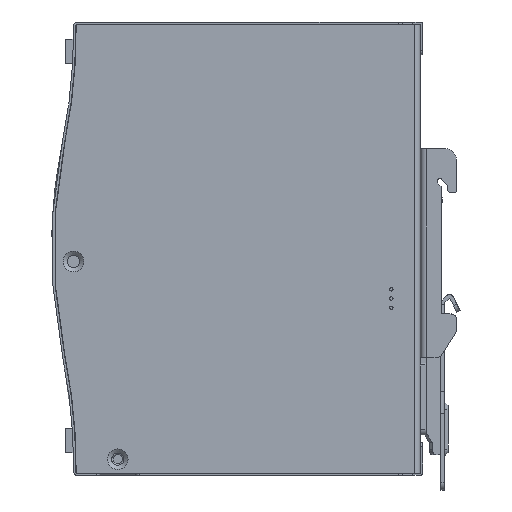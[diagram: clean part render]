
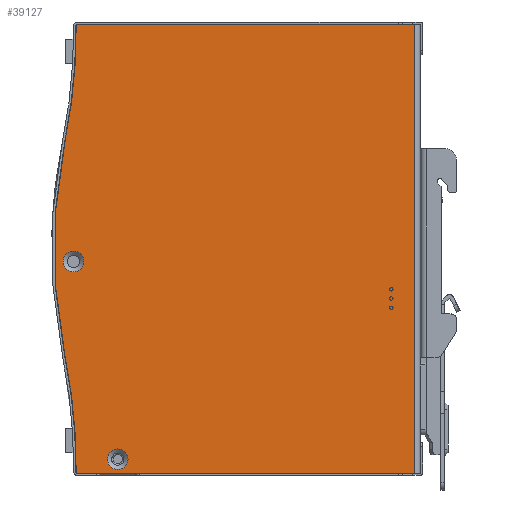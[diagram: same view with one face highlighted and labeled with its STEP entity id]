
A CAD part, front view. The second image highlights one B-rep face of the part: STEP entity #39127.
In plain terms, the highlighted planar face has unit normal (0, -1, 0).
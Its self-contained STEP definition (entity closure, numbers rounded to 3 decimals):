
#38972=CARTESIAN_POINT('',(84.453,13.236,74.0));
#38973=VERTEX_POINT('',#38972);
#38981=CARTESIAN_POINT('',(84.453,13.236,-50.0));
#38982=VERTEX_POINT('',#38981);
#38983=CARTESIAN_POINT('',(84.453,13.236,74.0));
#38984=DIRECTION('',(0.0,0.0,-1.0));
#38985=VECTOR('',#38984,124.0);
#38986=LINE('',#38983,#38985);
#38987=EDGE_CURVE('',#38973,#38982,#38986,.T.);
#39038=CARTESIAN_POINT('',(-13.667,13.236,0.0));
#39039=DIRECTION('',(0.0,-1.0,0.0));
#39040=DIRECTION('',(0.0,0.0,-1.0));
#39041=AXIS2_PLACEMENT_3D('',#39038,#39039,#39040);
#39042=PLANE('',#39041);
#39043=CARTESIAN_POINT('',(-8.439,13.236,-50.0));
#39044=VERTEX_POINT('',#39043);
#39045=CARTESIAN_POINT('',(84.453,13.236,-50.0));
#39046=DIRECTION('',(-1.0,0.0,0.0));
#39047=VECTOR('',#39046,92.892);
#39048=LINE('',#39045,#39047);
#39049=EDGE_CURVE('',#38982,#39044,#39048,.T.);
#39050=ORIENTED_EDGE('',*,*,#39049,.F.);
#39051=ORIENTED_EDGE('',*,*,#38987,.F.);
#39052=CARTESIAN_POINT('',(-8.439,13.236,74.0));
#39053=VERTEX_POINT('',#39052);
#39054=CARTESIAN_POINT('',(84.453,13.236,74.0));
#39055=DIRECTION('',(-1.0,0.0,0.0));
#39056=VECTOR('',#39055,92.892);
#39057=LINE('',#39054,#39056);
#39058=EDGE_CURVE('',#38973,#39053,#39057,.T.);
#39059=ORIENTED_EDGE('',*,*,#39058,.T.);
#39060=CARTESIAN_POINT('',(-8.939,13.236,73.495));
#39061=VERTEX_POINT('',#39060);
#39062=CARTESIAN_POINT('',(-8.439,13.236,73.5));
#39063=DIRECTION('',(0.0,-1.0,0.0));
#39064=DIRECTION('',(-1.0,0.0,0.0));
#39065=AXIS2_PLACEMENT_3D('',#39062,#39063,#39064);
#39066=CIRCLE('',#39065,0.5);
#39067=EDGE_CURVE('',#39053,#39061,#39066,.T.);
#39068=ORIENTED_EDGE('',*,*,#39067,.T.);
#39069=CARTESIAN_POINT('',(-11.964,13.236,42.01));
#39070=VERTEX_POINT('',#39069);
#39071=CARTESIAN_POINT('',(-158.932,13.236,72.019));
#39072=DIRECTION('',(0.0,-1.0,0.0));
#39073=DIRECTION('',(0.0,0.0,-1.0));
#39074=AXIS2_PLACEMENT_3D('',#39071,#39072,#39073);
#39075=CIRCLE('',#39074,150.);
#39076=EDGE_CURVE('',#39070,#39061,#39075,.T.);
#39077=ORIENTED_EDGE('',*,*,#39076,.F.);
#39078=CARTESIAN_POINT('',(-11.964,13.236,-18.01));
#39079=VERTEX_POINT('',#39078);
#39080=CARTESIAN_POINT('',(135.003,13.236,12.));
#39081=DIRECTION('',(0.0,-1.0,0.0));
#39082=DIRECTION('',(0.0,0.0,-1.0));
#39083=AXIS2_PLACEMENT_3D('',#39080,#39081,#39082);
#39084=CIRCLE('',#39083,150.);
#39085=EDGE_CURVE('',#39070,#39079,#39084,.T.);
#39086=ORIENTED_EDGE('',*,*,#39085,.T.);
#39087=CARTESIAN_POINT('',(-8.939,13.236,-49.495));
#39088=VERTEX_POINT('',#39087);
#39089=CARTESIAN_POINT('',(-158.932,13.236,-48.019));
#39090=DIRECTION('',(0.0,-1.0,0.0));
#39091=DIRECTION('',(0.0,0.0,-1.0));
#39092=AXIS2_PLACEMENT_3D('',#39089,#39090,#39091);
#39093=CIRCLE('',#39092,150.);
#39094=EDGE_CURVE('',#39088,#39079,#39093,.T.);
#39095=ORIENTED_EDGE('',*,*,#39094,.F.);
#39096=CARTESIAN_POINT('',(-8.439,13.236,-49.5));
#39097=DIRECTION('',(0.0,-1.0,0.0));
#39098=DIRECTION('',(-1.0,0.0,0.0));
#39099=AXIS2_PLACEMENT_3D('',#39096,#39097,#39098);
#39100=CIRCLE('',#39099,0.5);
#39101=EDGE_CURVE('',#39088,#39044,#39100,.T.);
#39102=ORIENTED_EDGE('',*,*,#39101,.T.);
#39103=EDGE_LOOP('',(#39050,#39051,#39059,#39068,#39077,#39086,#39095,#39102));
#39104=FACE_OUTER_BOUND('',#39103,.T.);
#39105=CARTESIAN_POINT('',(5.403,13.236,-46.1));
#39106=VERTEX_POINT('',#39105);
#39107=CARTESIAN_POINT('',(2.553,13.236,-46.1));
#39108=DIRECTION('',(0.0,1.0,0.0));
#39109=DIRECTION('',(-1.0,0.0,0.0));
#39110=AXIS2_PLACEMENT_3D('',#39107,#39108,#39109);
#39111=CIRCLE('',#39110,2.85);
#39112=EDGE_CURVE('',#39106,#39106,#39111,.T.);
#39113=ORIENTED_EDGE('',*,*,#39112,.T.);
#39114=EDGE_LOOP('',(#39113));
#39115=FACE_BOUND('',#39114,.T.);
#39116=CARTESIAN_POINT('',(-6.797,13.236,8.5));
#39117=VERTEX_POINT('',#39116);
#39118=CARTESIAN_POINT('',(-9.647,13.236,8.5));
#39119=DIRECTION('',(0.0,1.0,0.0));
#39120=DIRECTION('',(-1.0,0.0,0.0));
#39121=AXIS2_PLACEMENT_3D('',#39118,#39119,#39120);
#39122=CIRCLE('',#39121,2.85);
#39123=EDGE_CURVE('',#39117,#39117,#39122,.T.);
#39124=ORIENTED_EDGE('',*,*,#39123,.T.);
#39125=EDGE_LOOP('',(#39124));
#39126=FACE_BOUND('',#39125,.T.);
#39127=ADVANCED_FACE('',(#39104,#39115,#39126),#39042,.T.);
